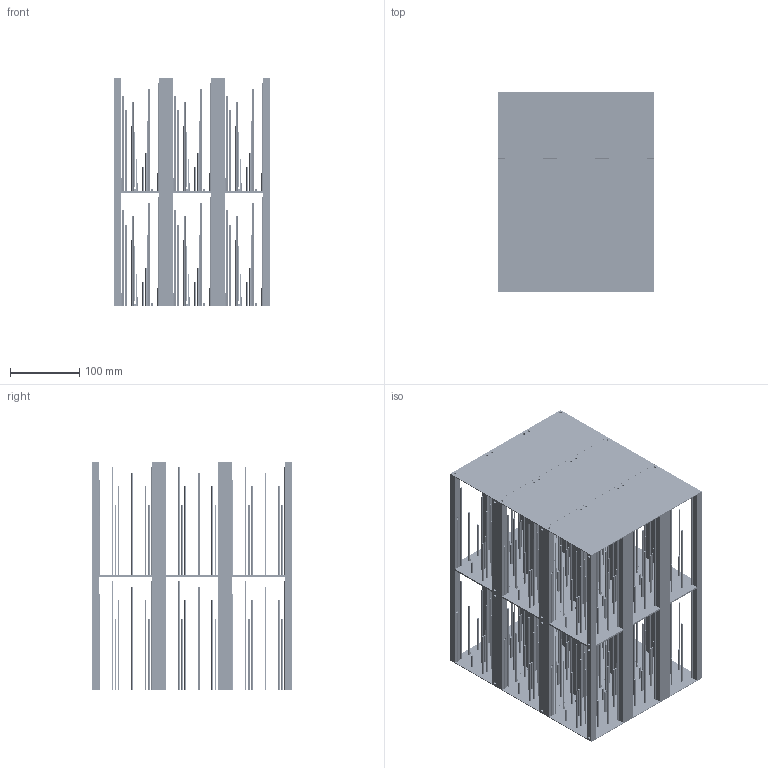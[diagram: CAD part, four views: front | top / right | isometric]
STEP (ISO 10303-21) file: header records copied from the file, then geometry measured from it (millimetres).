
FILE_DESCRIPTION(('FreeCAD Model'),'2;1');
FILE_NAME('Open CASCADE Shape Model','2026-10-14T18:44:40',('Author'),( ''),'Open CASCADE STEP processor 7.5','FreeCAD','Unknown');
FILE_SCHEMA(('AUTOMOTIVE_DESIGN { 1 0 10303 214 1 1 1 1 }'));
Length unit declared in the file: millimetre
Products named in the file (45): CrystalExhibit; CellTemplate; SupportMatrix; Pin_x0000; Pin_x0001; Pin_x0010; Pin_x0011; Pin_x0100; Pin_x0101; Pin_x0110; Pin_x0111; Pin_z0000; Pin_z0001; Pin_z0100; Pin_z0101; Pin_z0200; Pin_z0201; Pin_x1000; Pin_x1001; Pin_x1010; Pin_x1011; Pin_x1100; Pin_x1101; Pin_x1110; Pin_x1111; Pin_z1000; Pin_z1001; Pin_z1100; Pin_z1101; Pin_z1200; Pin_z1201; Pin_x2000; Pin_x2001; Pin_x2010; Pin_x2011; Pin_x2100; Pin_x2101; Pin_x2110; Pin_x2111; Pin_z2000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
Assembly tree (61 placements, depth 3):
  CrystalExhibit
    CellTemplate  x18
      SupportMatrix
    Pin_x0000
    Pin_x0001
    Pin_x0010
    Pin_x0011
    Pin_x0100
    Pin_x0101
    Pin_x0110
    Pin_x0111
    Pin_z0000
    Pin_z0001
    Pin_z0100
    Pin_z0101
    Pin_z0200
    Pin_z0201
    Pin_x1000
    Pin_x1001
    Pin_x1010
    Pin_x1011
    Pin_x1100
    Pin_x1101
    Pin_x1110
    Pin_x1111
    Pin_z1000
    Pin_z1001
    Pin_z1100
    Pin_z1101
    Pin_z1200
    Pin_z1201
    Pin_x2000
    Pin_x2001
    Pin_x2010
    Pin_x2011
    Pin_x2100
    Pin_x2101
    Pin_x2110
    Pin_x2111
    Pin_z2000
    Pin_z2001
    Pin_z2100
    Pin_z2101
    Pin_z2200
    Pin_z2201
Bounding box: 225.04 x 288.01 x 330 mm (x, y, z)
Volume: 1633355.1 mm3; surface area: 1248767.7 mm2
Topology: 60 solids, 60 shells, 3006 faces, 6858 edges, 4260 vertices
Faces by surface type: plane 1794, cylinder 708, sphere 504
Full cylindrical faces by diameter (mm): 2.4 x378, 3 x42, 3.5 x144
Entity records: 16709 total; most frequent: CARTESIAN_POINT 5330, DIRECTION 2243, ORIENTED_EDGE 934, PCURVE 934, DEFINITIONAL_REPRESENTATION 934, LINE 829, VECTOR 829, AXIS2_PLACEMENT_3D 590
